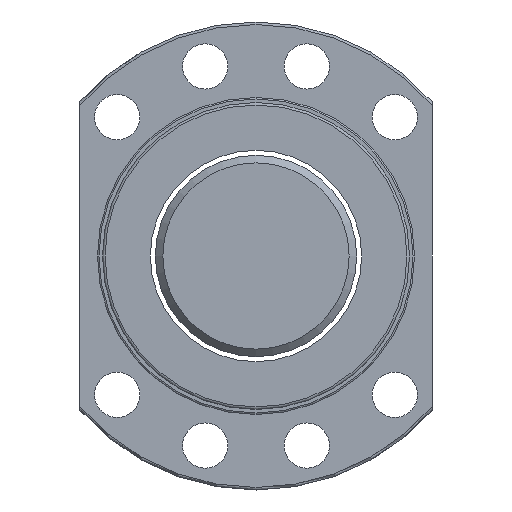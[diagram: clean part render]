
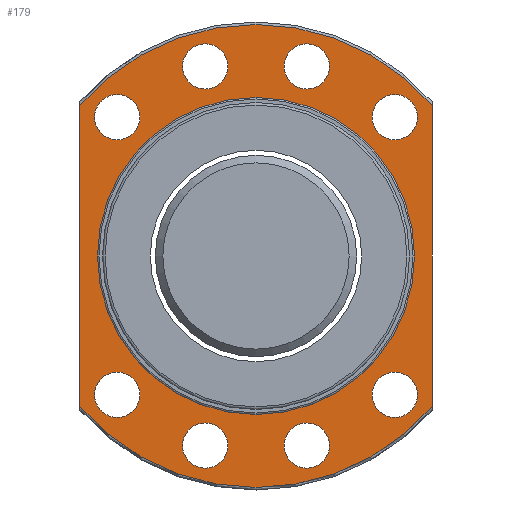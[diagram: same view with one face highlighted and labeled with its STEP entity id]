
A CAD part, left-side view. The second image highlights one B-rep face of the part: STEP entity #179.
In plain terms, the highlighted planar face has unit normal (-1, 0, 0).
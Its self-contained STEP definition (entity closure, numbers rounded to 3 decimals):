
#103=LINE('',#1351,#111);
#104=LINE('',#1352,#112);
#111=VECTOR('',#979,1.);
#112=VECTOR('',#980,1.);
#179=ADVANCED_FACE('',(#242,#276,#277,#278,#279,#280,#281,#282,#283,#284),
#220,.T.);
#220=PLANE('',#836);
#242=FACE_OUTER_BOUND('',#369,.T.);
#276=FACE_BOUND('',#370,.T.);
#277=FACE_BOUND('',#371,.T.);
#278=FACE_BOUND('',#372,.T.);
#279=FACE_BOUND('',#373,.T.);
#280=FACE_BOUND('',#374,.T.);
#281=FACE_BOUND('',#375,.T.);
#282=FACE_BOUND('',#376,.T.);
#283=FACE_BOUND('',#377,.T.);
#284=FACE_BOUND('',#378,.T.);
#369=EDGE_LOOP('',(#498,#499,#500,#501));
#370=EDGE_LOOP('',(#502));
#371=EDGE_LOOP('',(#503));
#372=EDGE_LOOP('',(#504));
#373=EDGE_LOOP('',(#505));
#374=EDGE_LOOP('',(#506));
#375=EDGE_LOOP('',(#507));
#376=EDGE_LOOP('',(#508));
#377=EDGE_LOOP('',(#509));
#378=EDGE_LOOP('',(#510));
#498=ORIENTED_EDGE('',*,*,#697,.F.);
#499=ORIENTED_EDGE('',*,*,#675,.F.);
#500=ORIENTED_EDGE('',*,*,#698,.T.);
#501=ORIENTED_EDGE('',*,*,#695,.F.);
#502=ORIENTED_EDGE('',*,*,#699,.T.);
#503=ORIENTED_EDGE('',*,*,#700,.F.);
#504=ORIENTED_EDGE('',*,*,#701,.F.);
#505=ORIENTED_EDGE('',*,*,#702,.F.);
#506=ORIENTED_EDGE('',*,*,#703,.F.);
#507=ORIENTED_EDGE('',*,*,#704,.F.);
#508=ORIENTED_EDGE('',*,*,#705,.F.);
#509=ORIENTED_EDGE('',*,*,#706,.F.);
#510=ORIENTED_EDGE('',*,*,#707,.F.);
#607=VERTEX_POINT('',#1214);
#608=VERTEX_POINT('',#1234);
#624=VERTEX_POINT('',#1328);
#625=VERTEX_POINT('',#1330);
#626=VERTEX_POINT('',#1354);
#627=VERTEX_POINT('',#1356);
#628=VERTEX_POINT('',#1358);
#629=VERTEX_POINT('',#1360);
#630=VERTEX_POINT('',#1362);
#631=VERTEX_POINT('',#1364);
#632=VERTEX_POINT('',#1366);
#633=VERTEX_POINT('',#1368);
#634=VERTEX_POINT('',#1370);
#675=EDGE_CURVE('',#608,#607,#742,.T.);
#695=EDGE_CURVE('',#624,#625,#755,.T.);
#697=EDGE_CURVE('',#607,#624,#103,.T.);
#698=EDGE_CURVE('',#608,#625,#104,.T.);
#699=EDGE_CURVE('',#626,#626,#756,.T.);
#700=EDGE_CURVE('',#627,#627,#757,.T.);
#701=EDGE_CURVE('',#628,#628,#758,.T.);
#702=EDGE_CURVE('',#629,#629,#759,.T.);
#703=EDGE_CURVE('',#630,#630,#760,.T.);
#704=EDGE_CURVE('',#631,#631,#761,.T.);
#705=EDGE_CURVE('',#632,#632,#762,.T.);
#706=EDGE_CURVE('',#633,#633,#763,.T.);
#707=EDGE_CURVE('',#634,#634,#764,.T.);
#742=CIRCLE('',#808,46.);
#755=CIRCLE('',#825,46.);
#756=CIRCLE('',#827,31.5);
#757=CIRCLE('',#828,4.5);
#758=CIRCLE('',#829,4.5);
#759=CIRCLE('',#830,4.5);
#760=CIRCLE('',#831,4.5);
#761=CIRCLE('',#832,4.5);
#762=CIRCLE('',#833,4.5);
#763=CIRCLE('',#834,4.5);
#764=CIRCLE('',#835,4.5);
#808=AXIS2_PLACEMENT_3D('',#1235,#937,#938);
#825=AXIS2_PLACEMENT_3D('',#1329,#975,#976);
#827=AXIS2_PLACEMENT_3D('',#1353,#981,#982);
#828=AXIS2_PLACEMENT_3D('',#1355,#983,#984);
#829=AXIS2_PLACEMENT_3D('',#1357,#985,#986);
#830=AXIS2_PLACEMENT_3D('',#1359,#987,#988);
#831=AXIS2_PLACEMENT_3D('',#1361,#989,#990);
#832=AXIS2_PLACEMENT_3D('',#1363,#991,#992);
#833=AXIS2_PLACEMENT_3D('',#1365,#993,#994);
#834=AXIS2_PLACEMENT_3D('',#1367,#995,#996);
#835=AXIS2_PLACEMENT_3D('',#1369,#997,#998);
#836=AXIS2_PLACEMENT_3D('',#1371,#999,#1000);
#937=DIRECTION('',(1.,0.,0.));
#938=DIRECTION('',(0.,1.,0.));
#975=DIRECTION('',(1.,0.,0.));
#976=DIRECTION('',(0.,1.,0.));
#979=DIRECTION('',(0.,0.,1.));
#980=DIRECTION('',(0.,0.,1.));
#981=DIRECTION('',(1.,0.,0.));
#982=DIRECTION('',(0.,1.,0.));
#983=DIRECTION('',(-1.,0.,0.));
#984=DIRECTION('',(0.,-1.,0.));
#985=DIRECTION('',(-1.,0.,0.));
#986=DIRECTION('',(0.,-1.,0.));
#987=DIRECTION('',(-1.,0.,0.));
#988=DIRECTION('',(0.,-1.,0.));
#989=DIRECTION('',(-1.,0.,0.));
#990=DIRECTION('',(0.,-1.,0.));
#991=DIRECTION('',(-1.,0.,0.));
#992=DIRECTION('',(0.,-1.,0.));
#993=DIRECTION('',(-1.,0.,0.));
#994=DIRECTION('',(0.,-1.,0.));
#995=DIRECTION('',(-1.,0.,0.));
#996=DIRECTION('',(0.,-1.,0.));
#997=DIRECTION('',(-1.,0.,0.));
#998=DIRECTION('',(0.,-1.,0.));
#999=DIRECTION('',(-1.,0.,0.));
#1000=DIRECTION('',(0.,-1.,0.));
#1214=CARTESIAN_POINT('',(-30.,35.,-29.85));
#1234=CARTESIAN_POINT('',(-30.,-35.,-29.85));
#1235=CARTESIAN_POINT('',(-30.,0.,0.));
#1328=CARTESIAN_POINT('',(-30.,35.,29.85));
#1329=CARTESIAN_POINT('',(-30.,0.,0.));
#1330=CARTESIAN_POINT('',(-30.,-35.,29.85));
#1351=CARTESIAN_POINT('',(-30.,35.,-60.002));
#1352=CARTESIAN_POINT('',(-30.,-35.,-60.002));
#1353=CARTESIAN_POINT('',(-30.,0.,0.));
#1354=CARTESIAN_POINT('',(-30.,31.5,0.));
#1355=CARTESIAN_POINT('',(-30.,10.094,37.671));
#1356=CARTESIAN_POINT('',(-30.,5.594,37.671));
#1357=CARTESIAN_POINT('',(-30.,-10.094,37.671));
#1358=CARTESIAN_POINT('',(-30.,-14.594,37.671));
#1359=CARTESIAN_POINT('',(-30.,-10.094,-37.671));
#1360=CARTESIAN_POINT('',(-30.,-14.594,-37.671));
#1361=CARTESIAN_POINT('',(-30.,10.094,-37.671));
#1362=CARTESIAN_POINT('',(-30.,5.594,-37.671));
#1363=CARTESIAN_POINT('',(-30.,-27.577,27.577));
#1364=CARTESIAN_POINT('',(-30.,-32.077,27.577));
#1365=CARTESIAN_POINT('',(-30.,27.577,27.577));
#1366=CARTESIAN_POINT('',(-30.,23.077,27.577));
#1367=CARTESIAN_POINT('',(-30.,-27.577,-27.577));
#1368=CARTESIAN_POINT('',(-30.,-32.077,-27.577));
#1369=CARTESIAN_POINT('',(-30.,27.577,-27.577));
#1370=CARTESIAN_POINT('',(-30.,23.077,-27.577));
#1371=CARTESIAN_POINT('',(-30.,38.75,0.));
